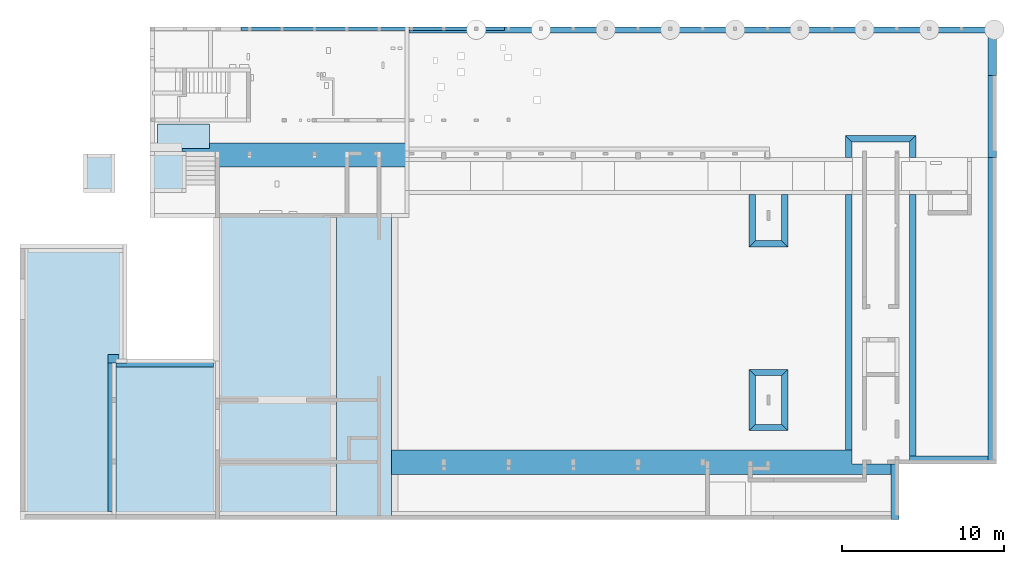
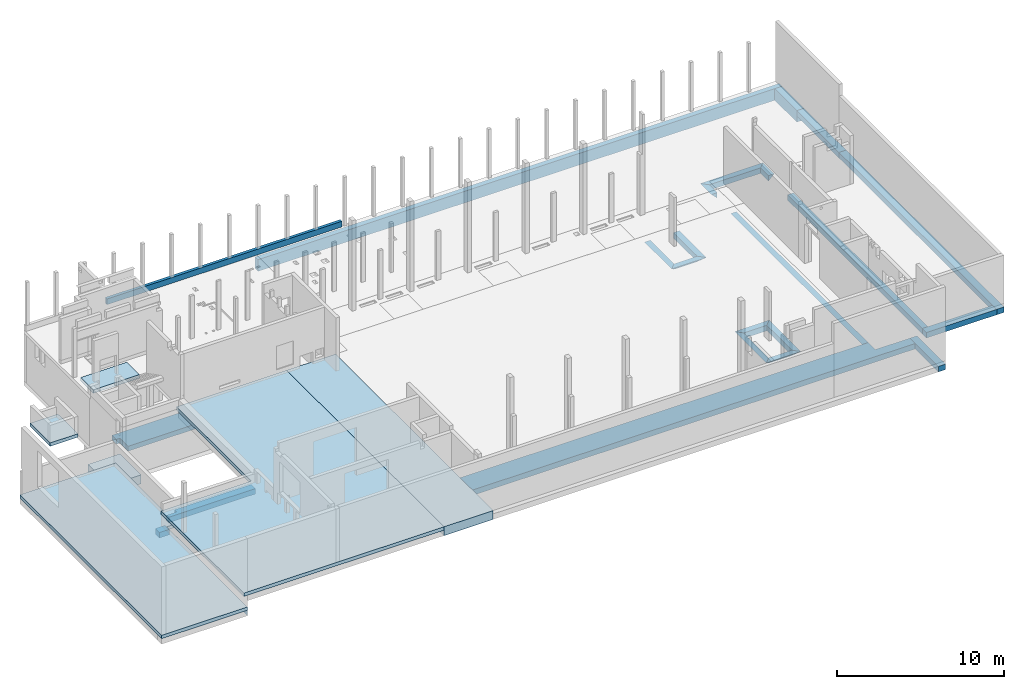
# One storey, part 3 of 12: 24 beams, 6 slabs, 3 openings.
"""IFC2X3 building model written with IfcOpenShell, lengths in metres."""

from ifc_helpers import new_model, entity, si_unit, converted_unit, direction, frame, frame_2d, origin, origin_2d_with_axis, place, context, subcontext, project, spatial, polyline, rectangle, outline, extrude, clip, halfspace, faceted_brep, material, layer, layer_set, layer_usage, type_object, element, save


model = new_model("IFC2X3")

# Units and contexts
model_context = context("Model", 3, precision=1e-05, world=frame((30.086303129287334, 2.687674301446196, 462.0)), true_north=direction((0.19008937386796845, 0.9817667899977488)))
body_context = subcontext(model_context, "Body", "Model", "MODEL_VIEW")
ifc_project = project(units=[si_unit("LENGTHUNIT", "METRE"), si_unit("AREAUNIT", "SQUARE_METRE"), converted_unit("PLANEANGLEUNIT", "DEGREE", entity("IfcPlaneAngleMeasure", 0.017453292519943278), si_unit("PLANEANGLEUNIT", "RADIAN"), dimensions=[0, 0, 0, 0, 0, 0, 0]), si_unit("VOLUMEUNIT", "CUBIC_METRE")], contexts=[model_context])

# Site, building, storey
site_placement = place(None, origin())
site = spatial("IfcSite", under=ifc_project, at=site_placement, Name="Default", CompositionType="ELEMENT")
building_placement = place(site_placement, origin())
building = spatial("IfcBuilding", under=site, at=building_placement, CompositionType="ELEMENT")
storey_placement = place(building_placement, frame((0.0, 0.0, -3.800000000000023)))
storey = spatial("IfcBuildingStorey", under=building, at=storey_placement, Name="FB_U01_OKFB", CompositionType="ELEMENT", Elevation=-3.800000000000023)

# Beams
ifc_material_1 = material(Name="WS_CONCRETE_REINFORCED")
beam_type_1 = type_object("IfcBeamType", Name="WS_FDN_REC:FDN_REC_350x1100", PredefinedType="BEAM")
beam_1_placement = place(storey_placement, frame((61.83033825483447, 6.340350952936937, 3.6800000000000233)))
element("IfcBeam", 1, at=beam_1_placement, inside=storey, type_object=beam_type_1, material=ifc_material_1, Name="WS_FDN_REC:FDN_REC_350x1100", ObjectType="WS_FDN_REC:FDN_REC_350x1100", context=body_context, shape_type="SweptSolid", body=[
    extrude(rectangle(XDim=0.8500000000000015, YDim=0.3500000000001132, at=frame_2d((5.551115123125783e-17, 2.8158031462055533e-14), x_axis=(1.0, 0.0))), frame((0.12499999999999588, 0.0, -0.6750000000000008), z_axis=(1.0, 0.0, 0.0), x_axis=(0.0, 0.0, -1.0)), (0.0, 0.0, 1.0), 36.29999966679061),
])
ifc_material_2 = material(Name="WS_CONCRETE_REINFORCED_WATERTIGHT")
beam_type_2 = type_object("IfcBeamType", Name="WS_FDN_REC:FDN_REC_500x650_WT", PredefinedType="BEAM")
beam_2_placement = place(storey_placement, frame((98.00533792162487, -20.35964897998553, 3.6800000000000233), z_axis=(0.0, 0.0, 1.0), x_axis=(0.0, 1.0, 0.0)))
element("IfcBeam", 2, at=beam_2_placement, inside=storey, type_object=beam_type_2, material=ifc_material_2, Name="WS_FDN_REC:FDN_REC_500x650_WT", ObjectType="WS_FDN_REC:FDN_REC_500x650_WT", context=body_context, shape_type="SweptSolid", body=[
    extrude(rectangle(XDim=0.4000000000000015, YDim=0.5000000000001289, at=frame_2d((5.551115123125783e-17, -8.663902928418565e-14), x_axis=(1.0, 0.0))), frame((-0.12500000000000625, 0.0, -0.45000000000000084), z_axis=(1.0, 0.0, 0.0), x_axis=(0.0, 0.0, -1.0)), (0.0, 0.0, 1.0), 18.955001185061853),
])
beam_3_placement = place(storey_placement, frame((92.10533873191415, -20.234648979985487, 3.6800000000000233)))
element("IfcBeam", 3, at=beam_3_placement, inside=storey, type_object=beam_type_2, material=ifc_material_2, Name="WS_FDN_REC:FDN_REC_500x650_WT", ObjectType="WS_FDN_REC:FDN_REC_500x650_WT", context=body_context, shape_type="SweptSolid", body=[
    extrude(rectangle(XDim=0.4000000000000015, YDim=0.5000000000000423, at=frame_2d((6.938893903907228e-17, 1.51684220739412e-14), x_axis=(1.0, 0.0))), frame((0.7749999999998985, 0.0, -0.45000000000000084), z_axis=(1.0, 0.0, 0.0), x_axis=(0.0, 0.0, -1.0)), (0.0, 0.0, 1.0), 4.874999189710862),
])
beam_4_placement = place(storey_placement, frame((91.98033873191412, -23.789655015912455, 3.6800000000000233), z_axis=(0.0, 0.0, 1.0), x_axis=(0.0, 1.0, 0.0)))
element("IfcBeam", 4, at=beam_4_placement, inside=storey, type_object=beam_type_2, material=ifc_material_2, Name="WS_FDN_REC:FDN_REC_500x650_WT", ObjectType="WS_FDN_REC:FDN_REC_500x650_WT", context=body_context, shape_type="SweptSolid", body=[
    extrude(rectangle(XDim=0.4000000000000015, YDim=0.500000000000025, at=frame_2d((6.938893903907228e-17, 0.0), x_axis=(1.0, 0.0))), frame((-0.12500000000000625, 0.0, -0.45000000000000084), z_axis=(1.0, 0.0, 0.0), x_axis=(0.0, 0.0, -1.0)), (0.0, 0.0, 1.0), 3.430006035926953),
])
beam_5_placement = place(storey_placement, frame((43.35152823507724, -23.914655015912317, 1.9300000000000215), z_axis=(0.0, 0.0, 1.0), x_axis=(0.0, 1.0, 0.0)))
element("IfcBeam", 5, at=beam_5_placement, inside=storey, type_object=beam_type_2, material=ifc_material_2, Name="WS_FDN_REC:FDN_REC_500x650_WT", ObjectType="WS_FDN_REC:FDN_REC_500x650_WT", context=body_context, shape_type="Brep", body=[
    faceted_brep([(9.68000601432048, -0.4999999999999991, 0.0), (9.68000601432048, 0.0, 0.0), (9.68000601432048, 0.0, 0.4000000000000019), (9.68000601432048, -0.4997770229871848, 0.4000000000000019), (9.68000601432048, -0.4997770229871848, 0.6499999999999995), (9.68000601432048, -0.4999999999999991, 0.6499999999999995), (9.68000601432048, -0.4999999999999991, 0.4000000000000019), (0.0, -0.49999999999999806, 0.6499999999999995), (0.0, -0.4997770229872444, 0.6499999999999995), (0.0, -0.49999999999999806, 0.0), (0.0, -0.4997770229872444, 0.0), (0.49999999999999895, -0.4997770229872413, 0.0), (0.49999999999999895, 0.0, 0.0), (0.49999999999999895, 0.0, 0.4000000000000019), (0.0, -0.4997770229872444, 0.4000000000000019), (0.5000000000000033, -0.4997770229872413, 0.4000000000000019)], [[[0, 1, 2, 3, 4, 5, 6]], [[7, 5, 4, 8]], [[5, 7, 9, 0, 6]], [[1, 0, 9, 10, 11, 12]], [[1, 12, 13, 2]], [[9, 7, 8, 14, 10]], [[12, 11, 15, 13]], [[4, 3, 15, 11, 10, 14, 8]], [[15, 3, 2, 13]]]),
])
beam_6_placement = place(storey_placement, frame((43.851305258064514, -14.484649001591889, 3.0300000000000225)))
element("IfcBeam", 6, at=beam_6_placement, inside=storey, type_object=beam_type_2, material=ifc_material_2, Name="WS_FDN_REC:FDN_REC_500x650_WT", ObjectType="WS_FDN_REC:FDN_REC_500x650_WT", context=body_context, shape_type="Brep", body=[
    faceted_brep([(0.0, 0.0, 0.4000000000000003), (0.0, 0.0, 0.0), (6.004032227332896, 0.0, 0.0), (6.004032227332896, 0.0, 0.4000000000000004), (6.0040322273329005, 0.5000000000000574, 0.0), (0.0, 0.24999999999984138, 0.0), (0.6790316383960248, 0.2499999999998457, 0.0), (0.6790316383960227, 0.5000000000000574, 0.0), (6.0040322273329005, 0.5000000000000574, 0.4000000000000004), (0.6790316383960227, 0.5000000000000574, 0.4000000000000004), (0.0, 0.24999999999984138, 0.4000000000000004), (0.6790316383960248, 0.2499999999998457, 0.4000000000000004)], [[[0, 1, 2, 3]], [[4, 2, 1, 5, 6, 7]], [[8, 4, 7, 9]], [[1, 0, 10, 5]], [[3, 8, 9, 11, 10, 0]], [[3, 2, 4, 8]], [[11, 6, 5, 10]], [[6, 11, 9, 7]]]),
])
beam_7_placement = place(storey_placement, frame((43.3503368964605, -13.98464900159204, 2.580000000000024)))
element("IfcBeam", 7, at=beam_7_placement, inside=storey, type_object=beam_type_2, material=ifc_material_2, Name="WS_FDN_REC:FDN_REC_500x650_WT", ObjectType="WS_FDN_REC:FDN_REC_500x650_WT", context=body_context, shape_type="SweptSolid", body=[
    extrude(rectangle(XDim=0.4000000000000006, YDim=0.500000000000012, at=origin_2d_with_axis()), frame((0.0, 0.0, -0.4500000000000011), z_axis=(1.0, 0.0, 0.0), x_axis=(0.0, 0.0, -1.0)), (0.0, 0.0, 1.0), 0.68000000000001),
])
beam_type_3 = type_object("IfcBeamType", Name="WS_FDN_REC:FDN_REC_500x1100", PredefinedType="BEAM")
beam_8_placement = place(storey_placement, frame((98.00533792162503, 3.5153509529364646, 3.6800000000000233), z_axis=(0.0, 0.0, 1.0), x_axis=(0.0, 1.0, 0.0)))
element("IfcBeam", 8, at=beam_8_placement, inside=storey, type_object=beam_type_3, material=ifc_material_1, Name="WS_FDN_REC:FDN_REC_500x1100", ObjectType="WS_FDN_REC:FDN_REC_500x1100", context=body_context, shape_type="SweptSolid", body=[
    extrude(rectangle(XDim=0.8500000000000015, YDim=0.5000000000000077, at=frame_2d((5.551115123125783e-17, -8.673617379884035e-15), x_axis=(1.0, 0.0))), frame((0.0, 0.0, -0.6750000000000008), z_axis=(1.0, 0.0, 0.0), x_axis=(0.0, 0.0, -1.0)), (0.0, 0.0, 1.0), 2.6500000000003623),
])
beam_type_4 = type_object("IfcBeamType", Name="WS_FDN_REC:FDN_REC_1500x650_WT", PredefinedType="BEAM")
beam_9_placement = place(storey_placement, frame((60.88081116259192, -21.134626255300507, 3.030000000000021)))
element("IfcBeam", 9, at=beam_9_placement, inside=storey, type_object=beam_type_4, material=ifc_material_2, Name="WS_FDN_REC:FDN_REC_1500x650_WT", ObjectType="WS_FDN_REC:FDN_REC_1500x650_WT", context=body_context, shape_type="Brep", body=[
    faceted_brep([(0.0, 0.0, 0.0), (30.84952756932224, 0.0, 0.0), (30.84952756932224, 0.0, 0.4000000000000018), (22.209549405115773, 0.0, 0.4000000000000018), (19.40452608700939, 0.0, 0.4000000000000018), (0.39999999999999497, 0.0, 0.4000000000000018), (0.0, 0.0, 0.4000000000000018), (0.0, 1.5000000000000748, 0.0), (28.449526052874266, 1.5000000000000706, 0.0), (28.449526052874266, 0.6499772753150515, 0.0), (30.849527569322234, 0.6499772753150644, 0.0), (0.0, 1.5000000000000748, 0.4000000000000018), (0.3999999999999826, 1.5000000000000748, 0.4000000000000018), (28.049526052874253, 1.5000000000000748, 0.4000000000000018), (28.449526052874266, 1.5000000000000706, 0.40000000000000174), (30.849527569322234, 0.6499772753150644, 0.4000000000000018), (28.449526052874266, 0.6499772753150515, 0.4000000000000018)], [[[0, 1, 2, 3, 4, 5, 6]], [[0, 7, 8, 9, 10, 1]], [[8, 7, 11, 12, 13, 14]], [[1, 10, 15, 2]], [[7, 0, 6, 11]], [[10, 9, 16, 15]], [[9, 8, 14, 16]], [[6, 5, 4, 3, 2, 15, 16, 14, 13, 12, 11]]]),
])
beam_10_placement = place(storey_placement, frame((47.90533862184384, -2.144647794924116, -0.7199999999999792), z_axis=(0.0, 0.0, 1.0), x_axis=(-1.0, 0.0, 0.0)))
element("IfcBeam", 10, at=beam_10_placement, inside=storey, type_object=beam_type_4, material=ifc_material_2, Name="WS_FDN_REC:FDN_REC_1500x650_WT", ObjectType="WS_FDN_REC:FDN_REC_1500x650_WT", context=body_context, shape_type="Brep", body=[
    faceted_brep([(-14.049999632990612, -1.5000000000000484, 0.0), (0.0, -1.5000000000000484, 0.0), (0.0, -1.5000000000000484, 0.35000000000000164), (-14.049999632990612, -1.5000000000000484, 0.35000000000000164), (-14.049999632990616, 0.0, 0.0), (-0.24999999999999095, 0.0, 0.0), (-0.24999999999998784, -0.9749999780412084, 0.0), (0.0, -0.9749999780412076, 0.0), (-14.049999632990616, 0.0, 0.35000000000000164), (-0.24999999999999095, 0.0, 0.35000000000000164), (-0.24999999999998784, -0.9749999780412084, 0.35000000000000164), (0.0, -0.9749999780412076, 0.35000000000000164)], [[[0, 1, 2, 3]], [[0, 4, 5, 6, 7, 1]], [[5, 4, 8, 9]], [[4, 0, 3, 8]], [[6, 5, 9, 10]], [[7, 6, 10, 11]], [[1, 7, 11, 2]], [[3, 2, 11, 10, 9, 8]]]),
])
beam_type_5 = type_object("IfcBeamType", Name="WS_FDN_Voute:FDN_REC_250x750_Voute_WT", PredefinedType="BEAM", material=ifc_material_2)
beam_11_placement = place(storey_placement, frame((93.06693144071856, -3.7046103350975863, 3.6800000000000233), z_axis=(0.0, 0.0, 1.0), x_axis=(0.0, -1.0, 0.0)))
element("IfcBeam", 11, at=beam_11_placement, inside=storey, type_object=beam_type_5, material=ifc_material_2, Name="WS_FDN_Voute:FDN_REC_250x750_Voute_WT", ObjectType="WS_FDN_Voute:FDN_REC_250x750_Voute_WT", context=body_context, shape_type="SweptSolid", body=[
    extrude(outline(polyline([(-0.1333333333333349, -0.1333333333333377), (0.2666666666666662, -0.1333333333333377), (-0.13333333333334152, 0.2666666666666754), (-0.1333333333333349, -0.1333333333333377)])), frame((0.12499999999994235, -0.05325937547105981, -0.3833333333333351), z_axis=(1.0, 0.0, 0.0), x_axis=(0.0, 0.0, -1.0)), (0.0, 0.0, 1.0), 16.155038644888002),
])
beam_12_placement = place(storey_placement, frame((89.14374450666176, -3.704610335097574, 3.6800000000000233), z_axis=(0.0, 0.0, 1.0), x_axis=(0.0, -1.0, 0.0)))
element("IfcBeam", 12, at=beam_12_placement, inside=storey, type_object=beam_type_5, material=ifc_material_2, Name="WS_FDN_Voute:FDN_REC_250x750_Voute_WT", ObjectType="WS_FDN_Voute:FDN_REC_250x750_Voute_WT", context=body_context, shape_type="SweptSolid", body=[
    extrude(outline(polyline([(-0.26666666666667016, -0.1333333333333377), (0.1333333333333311, -0.1333333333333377), (0.1333333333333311, 0.2666666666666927), (-0.26666666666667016, -0.1333333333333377)])), frame((0.12499999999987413, 0.05325937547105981, -0.38333333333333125), z_axis=(1.0, 0.0, 0.0), x_axis=(0.0, 0.0, 1.0)), (0.0, 0.0, 1.0), 15.805015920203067),
])
beam_13_placement = place(storey_placement, frame((83.17874464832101, -3.704610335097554, 3.6800000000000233), z_axis=(0.0, 0.0, 1.0), x_axis=(0.0, -1.0, 0.0)))
element("IfcBeam", 13, at=beam_13_placement, inside=storey, type_object=beam_type_5, material=ifc_material_2, Name="WS_FDN_Voute:FDN_REC_250x750_Voute_WT", ObjectType="WS_FDN_Voute:FDN_REC_250x750_Voute_WT", context=body_context, shape_type="SweptSolid", body=[
    clip(extrude(outline(polyline([(-0.2666666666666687, -0.1333333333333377), (0.1333333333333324, -0.1333333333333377), (0.1333333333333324, 0.2666666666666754), (-0.2666666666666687, -0.1333333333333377)])), frame((0.1249999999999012, 0.05325937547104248, -0.3833333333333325), z_axis=(1.0, 0.0, 0.0), x_axis=(0.0, 0.0, 1.0)), (0.0, 0.0, 1.0), 3.254960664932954), halfspace(frame((2.9799606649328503, 0.1865927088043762, 0.0), z_axis=(0.7071067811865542, 0.7071067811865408, 0.0), x_axis=(-0.7071067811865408, 0.7071067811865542, 0.0)), False)),
])
beam_14_placement = place(storey_placement, frame((85.15193006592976, -3.70461033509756, 3.6800000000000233), z_axis=(0.0, 0.0, 1.0), x_axis=(0.0, -1.0, 0.0)))
element("IfcBeam", 14, at=beam_14_placement, inside=storey, type_object=beam_type_5, material=ifc_material_2, Name="WS_FDN_Voute:FDN_REC_250x750_Voute_WT", ObjectType="WS_FDN_Voute:FDN_REC_250x750_Voute_WT", context=body_context, shape_type="SweptSolid", body=[
    clip(extrude(outline(polyline([(-0.1333333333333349, -0.1333333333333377), (0.2666666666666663, -0.1333333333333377), (-0.13333333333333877, 0.2666666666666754), (-0.1333333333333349, -0.1333333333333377)])), frame((0.12499999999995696, -0.05325937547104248, -0.38333333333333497), z_axis=(1.0, 0.0, 0.0), x_axis=(0.0, 0.0, -1.0)), (0.0, 0.0, 1.0), 3.254960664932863), halfspace(frame((2.9799606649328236, -0.1865927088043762, 0.0), z_axis=(0.7071067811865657, -0.7071067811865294, 0.0), x_axis=(0.7071067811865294, 0.7071067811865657, 0.0)), False)),
])
beam_15_placement = place(storey_placement, frame((83.17874464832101, -6.871163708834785, 3.6800000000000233)))
element("IfcBeam", 15, at=beam_15_placement, inside=storey, type_object=beam_type_5, material=ifc_material_2, Name="WS_FDN_Voute:FDN_REC_250x750_Voute_WT", ObjectType="WS_FDN_Voute:FDN_REC_250x750_Voute_WT", context=body_context, shape_type="SweptSolid", body=[
    clip(clip(extrude(outline(polyline([(-0.26666666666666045, -0.13333333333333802), (0.13333333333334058, -0.13333333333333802), (0.1333333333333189, 0.26666666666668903), (-0.26666666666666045, -0.13333333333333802)])), frame((-0.21340729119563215, 0.05325937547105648, -0.3833333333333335), z_axis=(1.0, 0.0, 0.0), x_axis=(0.0, 0.0, 1.0)), (0.0, 0.0, 1.0), 2.400000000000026), halfspace(frame((0.18659270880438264, 0.18659270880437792, 0.0), z_axis=(-0.7071067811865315, 0.7071067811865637, 0.0), x_axis=(0.7071067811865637, 0.7071067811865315, 0.0)), False)), halfspace(frame((1.7865927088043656, 0.18659270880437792, 0.0), z_axis=(0.7071067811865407, 0.7071067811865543, 0.0), x_axis=(0.7071067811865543, -0.7071067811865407, 0.0)), False)),
])
beam_16_placement = place(storey_placement, frame((83.17874464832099, -14.848055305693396, 3.6800000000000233), z_axis=(0.0, 0.0, 1.0), x_axis=(0.0, -1.0, 0.0)))
element("IfcBeam", 16, at=beam_16_placement, inside=storey, type_object=beam_type_5, material=ifc_material_2, Name="WS_FDN_Voute:FDN_REC_250x750_Voute_WT", ObjectType="WS_FDN_Voute:FDN_REC_250x750_Voute_WT", context=body_context, shape_type="SweptSolid", body=[
    clip(clip(extrude(outline(polyline([(-0.2666666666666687, -0.1333333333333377), (0.13333333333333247, -0.1333333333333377), (0.1333333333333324, 0.2666666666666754), (-0.2666666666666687, -0.1333333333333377)])), frame((-0.21340729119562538, 0.053259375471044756, -0.3833333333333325), z_axis=(1.0, 0.0, 0.0), x_axis=(0.0, 0.0, 1.0)), (0.0, 0.0, 1.0), 3.8000000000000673), halfspace(frame((3.186592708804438, 0.1865927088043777, 0.0), z_axis=(0.7071067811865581, 0.7071067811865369, 0.0), x_axis=(-0.7071067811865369, 0.7071067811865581, 0.0)), False)), halfspace(frame((0.18659270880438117, 0.18659270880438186, 0.0), z_axis=(-0.7071067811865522, 0.7071067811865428, 0.0), x_axis=(0.7071067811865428, 0.7071067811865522, 0.0)), False)),
])
beam_17_placement = place(storey_placement, frame((85.15193006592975, -14.848055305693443, 3.6800000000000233), z_axis=(0.0, 0.0, 1.0), x_axis=(0.0, -1.0, 0.0)))
element("IfcBeam", 17, at=beam_17_placement, inside=storey, type_object=beam_type_5, material=ifc_material_2, Name="WS_FDN_Voute:FDN_REC_250x750_Voute_WT", ObjectType="WS_FDN_Voute:FDN_REC_250x750_Voute_WT", context=body_context, shape_type="SweptSolid", body=[
    clip(clip(extrude(outline(polyline([(-0.1333333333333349, -0.1333333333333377), (0.2666666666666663, -0.1333333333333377), (-0.13333333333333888, 0.2666666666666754), (-0.1333333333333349, -0.1333333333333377)])), frame((-0.21340729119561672, -0.053259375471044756, -0.38333333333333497), z_axis=(1.0, 0.0, 0.0), x_axis=(0.0, 0.0, -1.0)), (0.0, 0.0, 1.0), 3.7999999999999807), halfspace(frame((3.1865927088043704, -0.1865927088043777, 0.0), z_axis=(0.7071067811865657, -0.7071067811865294, 0.0), x_axis=(0.7071067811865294, 0.7071067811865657, 0.0)), False)), halfspace(frame((0.1865927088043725, -0.18659270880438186, 0.0), z_axis=(-0.7071067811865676, -0.7071067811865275, 0.0), x_axis=(-0.7071067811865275, 0.7071067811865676, 0.0)), False)),
])
beam_18_placement = place(storey_placement, frame((83.17874464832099, -18.221240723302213, 3.6800000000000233)))
element("IfcBeam", 18, at=beam_18_placement, inside=storey, type_object=beam_type_5, material=ifc_material_2, Name="WS_FDN_Voute:FDN_REC_250x750_Voute_WT", ObjectType="WS_FDN_Voute:FDN_REC_250x750_Voute_WT", context=body_context, shape_type="SweptSolid", body=[
    clip(clip(extrude(outline(polyline([(-0.26666666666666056, -0.1333333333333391), (0.13333333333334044, -0.1333333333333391), (0.1333333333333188, 0.2666666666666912), (-0.26666666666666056, -0.1333333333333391)])), frame((-0.2134072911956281, 0.05325937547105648, -0.38333333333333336), z_axis=(1.0, 0.0, 0.0), x_axis=(0.0, 0.0, 1.0)), (0.0, 0.0, 1.0), 2.400000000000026), halfspace(frame((0.18659270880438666, 0.18659270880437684, 0.0), z_axis=(-0.7071067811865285, 0.7071067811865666, 0.0), x_axis=(0.7071067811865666, 0.7071067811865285, 0.0)), False)), halfspace(frame((1.7865927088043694, 0.18659270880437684, 0.0), z_axis=(0.7071067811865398, 0.7071067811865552, 0.0), x_axis=(0.7071067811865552, -0.7071067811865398, 0.0)), False)),
])
beam_19_placement = place(storey_placement, frame((83.17874464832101, -14.848055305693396, 3.6800000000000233)))
element("IfcBeam", 19, at=beam_19_placement, inside=storey, type_object=beam_type_5, material=ifc_material_2, Name="WS_FDN_Voute:FDN_REC_250x750_Voute_WT", ObjectType="WS_FDN_Voute:FDN_REC_250x750_Voute_WT", context=body_context, shape_type="SweptSolid", body=[
    clip(clip(extrude(outline(polyline([(-0.13333333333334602, -0.13333333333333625), (0.26666666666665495, -0.13333333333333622), (-0.13333333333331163, 0.26666666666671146), (-0.13333333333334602, -0.13333333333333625)])), frame((-0.21340729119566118, -0.05325937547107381, -0.3833333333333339), z_axis=(1.0, 0.0, 0.0), x_axis=(0.0, 0.0, -1.0)), (0.0, 0.0, 1.0), 2.400000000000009), halfspace(frame((0.1865927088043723, -0.18659270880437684, 0.0), z_axis=(-0.7071067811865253, -0.7071067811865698, 0.0), x_axis=(0.7071067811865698, -0.7071067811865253, 0.0)), False)), halfspace(frame((1.786592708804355, -0.18659270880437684, 0.0), z_axis=(0.707106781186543, -0.707106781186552, 0.0), x_axis=(0.707106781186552, 0.707106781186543, 0.0)), False)),
])
beam_type_6 = type_object("IfcBeamType", Name="WS_FDN_Voute:FDN_REC_250x750_Voute", PredefinedType="BEAM")
beam_20_placement = place(storey_placement, frame((89.1437445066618, -0.3980623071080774, 3.6800000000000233), z_axis=(0.0, 0.0, 1.0), x_axis=(0.0, -1.0, 0.0)))
element("IfcBeam", 20, at=beam_20_placement, inside=storey, type_object=beam_type_6, material=ifc_material_1, Name="WS_FDN_Voute:FDN_REC_250x750_Voute", ObjectType="WS_FDN_Voute:FDN_REC_250x750_Voute", context=body_context, shape_type="SweptSolid", body=[
    clip(extrude(outline(polyline([(-0.2666666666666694, -0.1333333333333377), (0.13333333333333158, -0.1333333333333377), (0.13333333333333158, 0.2666666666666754), (-0.2666666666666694, -0.1333333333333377)])), frame((-0.21340729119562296, 0.05325937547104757, -0.38333333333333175), z_axis=(1.0, 0.0, 0.0), x_axis=(0.0, 0.0, 1.0)), (0.0, 0.0, 1.0), 1.344992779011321), halfspace(frame((0.18659270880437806, 0.1865927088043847, 0.0), z_axis=(-0.7071067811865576, 0.7071067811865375, 0.0), x_axis=(0.7071067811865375, 0.7071067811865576, 0.0)), False)),
])
beam_21_placement = place(storey_placement, frame((93.06693144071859, -0.39806230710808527, 3.6800000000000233), z_axis=(0.0, 0.0, 1.0), x_axis=(-1.0, 0.0, 0.0)))
element("IfcBeam", 21, at=beam_21_placement, inside=storey, type_object=beam_type_6, material=ifc_material_1, Name="WS_FDN_Voute:FDN_REC_250x750_Voute", ObjectType="WS_FDN_Voute:FDN_REC_250x750_Voute", context=body_context, shape_type="SweptSolid", body=[
    clip(clip(extrude(outline(polyline([(-0.26666666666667, -0.1333333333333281), (0.1333333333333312, -0.1333333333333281), (0.13333333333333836, 0.2666666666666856), (-0.26666666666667, -0.1333333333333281)])), frame((-0.21340729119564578, 0.05325937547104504, -0.3833333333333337), z_axis=(1.0, 0.0, 0.0), x_axis=(0.0, 0.0, 1.0)), (0.0, 0.0, 1.0), 4.350001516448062), halfspace(frame((3.736594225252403, 0.1865927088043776, 0.0), z_axis=(0.707106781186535, 0.70710678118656, 0.0), x_axis=(-0.70710678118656, 0.707106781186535, 0.0)), False)), halfspace(frame((0.1865927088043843, 0.1865927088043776, 0.0), z_axis=(-0.7071067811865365, 0.7071067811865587, 0.0), x_axis=(-0.7071067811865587, -0.7071067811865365, 0.0)), False)),
])
beam_22_placement = place(storey_placement, frame((93.06693144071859, -0.3980623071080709, 3.6800000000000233), z_axis=(0.0, 0.0, 1.0), x_axis=(0.0, -1.0, 0.0)))
element("IfcBeam", 22, at=beam_22_placement, inside=storey, type_object=beam_type_6, material=ifc_material_1, Name="WS_FDN_Voute:FDN_REC_250x750_Voute", ObjectType="WS_FDN_Voute:FDN_REC_250x750_Voute", context=body_context, shape_type="SweptSolid", body=[
    clip(extrude(outline(polyline([(-0.13333333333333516, -0.1333333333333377), (0.26666666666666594, -0.1333333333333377), (-0.13333333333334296, 0.2666666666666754), (-0.13333333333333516, -0.1333333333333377)])), frame((-0.213407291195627, -0.05325937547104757, -0.3833333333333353), z_axis=(1.0, 0.0, 0.0), x_axis=(0.0, 0.0, -1.0)), (0.0, 0.0, 1.0), 1.344992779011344), halfspace(frame((0.18659270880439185, -0.1865927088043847, 0.0), z_axis=(-0.707106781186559, -0.7071067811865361, 0.0), x_axis=(-0.7071067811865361, 0.707106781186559, 0.0)), False)),
])
beam_type_7 = type_object("IfcBeamType", Name="WS_FDN_REC:FDN_REC_500x650", PredefinedType="BEAM")
beam_23_placement = place(storey_placement, frame((98.005337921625, -1.5296477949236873, 3.6800000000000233), z_axis=(0.0, 0.0, 1.0), x_axis=(0.0, 1.0, 0.0)))
element("IfcBeam", 23, at=beam_23_placement, inside=storey, type_object=beam_type_7, material=ifc_material_1, Name="WS_FDN_REC:FDN_REC_500x650", ObjectType="WS_FDN_REC:FDN_REC_500x650", context=body_context, shape_type="SweptSolid", body=[
    extrude(rectangle(XDim=0.4000000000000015, YDim=0.5000000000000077, at=frame_2d((5.551115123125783e-17, -8.673617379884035e-15), x_axis=(1.0, 0.0))), frame((0.0, 0.0, -0.45000000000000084), z_axis=(1.0, 0.0, 0.0), x_axis=(0.0, 0.0, -1.0)), (0.0, 0.0, 1.0), 5.044998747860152),
])
beam_type_8 = type_object("IfcBeamType", Name="WS_FDN_REC:FDN_REC_205x670", PredefinedType="BEAM")
beam_24_placement = place(storey_placement, frame((51.57533975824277, 6.412851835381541, 3.4300000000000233)))
element("IfcBeam", 24, at=beam_24_placement, inside=storey, type_object=beam_type_8, material=ifc_material_1, Name="WS_FDN_REC:FDN_REC_205x670", ObjectType="WS_FDN_REC:FDN_REC_205x670", context=body_context, shape_type="SweptSolid", body=[
    extrude(rectangle(XDim=0.41999999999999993, YDim=0.2050000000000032, at=frame_2d((-4.718447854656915e-16, 4.981431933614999e-14), x_axis=(1.0, 0.0))), frame((0.0, 0.0, 0.45999999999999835), z_axis=(1.0, 0.0, 0.0), x_axis=(0.0, 0.0, -1.0)), (0.0, 0.0, 1.0), 16.289998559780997),
])

# Slabs
ifc_layer_1 = layer(ifc_material_2, 0.65)
ifc_layer_set_1 = layer_set([ifc_layer_1], Name="Bodenplatte:WS_FDN_SLB_650_WT")
ifc_layer_usage_1 = layer_usage(ifc_layer_set_1, "AXIS3", "POSITIVE", 0.0)
slab_type_1 = type_object("IfcSlabType", Name="Bodenplatte:WS_FDN_SLB_650_WT", PredefinedType="BASESLAB", material=ifc_layer_set_1)
slab_1_placement = place(storey_placement, origin())
element("IfcSlab", 25, at=slab_1_placement, inside=storey, type_object=slab_type_1, material=ifc_layer_usage_1, Name="Bodenplatte:WS_FDN_SLB_650_WT", ObjectType="Bodenplatte:WS_FDN_SLB_650_WT", PredefinedType="BASESLAB", context=body_context, shape_type="SweptSolid", body=[
    extrude(rectangle(XDim=2.54996064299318, YDim=2.199999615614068, at=frame_2d((3.3306690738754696e-16, 4.3298697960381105e-15), x_axis=(1.0, 0.0))), frame((47.0553388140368, -2.4446281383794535, -1.4999999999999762), z_axis=(0.0, 0.0, -1.0), x_axis=(0.0, 1.0, 0.0)), (0.0, 0.0, 1.0), 0.6499999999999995),
])
ifc_layer_2 = layer(ifc_material_1, 0.24999999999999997)
ifc_layer_set_2 = layer_set([ifc_layer_2], Name="Geschossdecke:WS_SLB_CON_250")
ifc_layer_usage_2 = layer_usage(ifc_layer_set_2, "AXIS3", "POSITIVE", 0.0)
slab_type_2 = type_object("IfcSlabType", Name="Geschossdecke:WS_SLB_CON_250", PredefinedType="FLOOR", material=ifc_layer_set_2)
slab_2_placement = place(storey_placement, origin())
element("IfcSlab", 26, at=slab_2_placement, inside=storey, type_object=slab_type_2, material=ifc_layer_usage_2, Name="Geschossdecke:WS_SLB_CON_250", ObjectType="Geschossdecke:WS_SLB_CON_250", PredefinedType="FLOOR", context=body_context, shape_type="SweptSolid", body=[
    extrude(rectangle(XDim=2.3899212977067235, YDim=1.9249995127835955, at=frame_2d((1.1102230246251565e-16, 0.0), x_axis=(1.0, 0.0))), frame((42.8028331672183, -2.524608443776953, 3.050000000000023), z_axis=(0.0, 0.0, -1.0), x_axis=(0.0, 1.0, 0.0)), (0.0, 0.0, 1.0), 0.25),
])
ifc_layer_3 = layer(ifc_material_2, 0.24999999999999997)
ifc_layer_set_3 = layer_set([ifc_layer_3], Name="Geschossdecke:WS_SLB_CON_250_WT")
ifc_layer_usage_3 = layer_usage(ifc_layer_set_3, "AXIS3", "POSITIVE", 0.0)
slab_type_3 = type_object("IfcSlabType", Name="Geschossdecke:WS_SLB_CON_250_WT", PredefinedType="FLOOR", material=ifc_layer_set_3)
slab_3_placement = place(storey_placement, origin())
element("IfcSlab", 27, at=slab_3_placement, inside=storey, type_object=slab_type_3, material=ifc_layer_usage_3, Name="Geschossdecke:WS_SLB_CON_250_WT", ObjectType="Geschossdecke:WS_SLB_CON_250_WT", PredefinedType="FLOOR", context=body_context, shape_type="SweptSolid", body=[
    extrude(outline(polyline([(-8.890002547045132, -4.190322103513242), (8.099999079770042, -4.190322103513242), (8.099999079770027, 2.434676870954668), (0.7900034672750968, 2.434676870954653), (0.7900034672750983, 1.7556452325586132), (-8.890002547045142, 1.7556452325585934), (-8.890002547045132, -4.190322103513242)])), frame((42.095660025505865, -15.02465246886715, 2.580000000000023), z_axis=(0.0, 0.0, -1.0), x_axis=(0.0, 1.0, 0.0)), (0.0, 0.0, 1.0), 0.25),
])

# Slab, openings
ifc_layer_usage_4 = layer_usage(ifc_layer_set_3, "AXIS3", "POSITIVE", 0.0)
slab_4_placement = place(storey_placement, origin())
slab_4 = element("IfcSlab", 28, at=slab_4_placement, inside=storey, type_object=slab_type_3, material=ifc_layer_usage_4, Name="Geschossdecke:WS_SLB_CON_250_WT", ObjectType="Geschossdecke:WS_SLB_CON_250_WT", PredefinedType="FLOOR", context=body_context, shape_type="SweptSolid", body=[
    extrude(outline(polyline([(-9.61167086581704, -6.7110214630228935), (0.31833514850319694, -6.7110214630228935), (0.31833514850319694, -0.4569892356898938), (9.29333571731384, -0.4569892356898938), (9.29333571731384, 7.168010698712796), (-9.61167086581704, 7.168010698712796), (-9.61167086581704, -6.7110214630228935)])), frame((50.312326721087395, -14.302984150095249, 3.6800000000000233), z_axis=(0.0, 0.0, -1.0), x_axis=(0.0, 1.0, 0.0)), (0.0, 0.0, 1.0), 0.24999999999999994),
])
opening_1_placement = place(slab_4_placement, origin())
element("IfcOpeningElement", 29, at=opening_1_placement, cuts=slab_4, Name="Geschossdecke:WS_SLB_CON_250_WT", ObjectType="Opening", context=body_context, shape_type="SweptSolid", body=[
    extrude(rectangle(XDim=0.14000000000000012, YDim=0.499999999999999, at=frame_2d((8.118505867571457e-16, -4.343747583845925e-15), x_axis=(1.0, 0.0))), frame((54.79033735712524, -4.939648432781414, 3.4300000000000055), z_axis=(0.0, 0.0, 1.0), x_axis=(0.0, -1.0, 0.0)), (0.0, 0.0, 1.0), 0.24999999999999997),
])
opening_2_placement = place(slab_4_placement, origin())
element("IfcOpeningElement", 30, at=opening_2_placement, cuts=slab_4, Name="Geschossdecke:WS_SLB_CON_250_WT", ObjectType="Opening", context=body_context, shape_type="SweptSolid", body=[
    extrude(rectangle(XDim=1.4000000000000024, YDim=0.2, at=frame_2d((-4.3298697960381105e-15, 0.0), x_axis=(1.0, 0.0))), frame((53.40033796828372, -4.9096484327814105, 3.4300000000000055), z_axis=(0.0, 0.0, 1.0), x_axis=(-1.0, 0.0, 0.0)), (0.0, 0.0, 1.0), 0.24999999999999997),
])

# Slab, opening
ifc_layer_4 = layer(ifc_material_2, 0.65)
ifc_layer_set_4 = layer_set([ifc_layer_4], Name="Geschossdecke:WS_SLB_CON_650_WT")
ifc_layer_usage_5 = layer_usage(ifc_layer_set_4, "AXIS3", "POSITIVE", 0.0)
slab_type_4 = type_object("IfcSlabType", Name="Geschossdecke:WS_SLB_CON_650_WT", PredefinedType="FLOOR", material=ifc_layer_set_4)
slab_5_placement = place(storey_placement, origin())
slab_5 = element("IfcSlab", 31, at=slab_5_placement, inside=storey, type_object=slab_type_4, material=ifc_layer_usage_5, Name="Geschossdecke:WS_SLB_CON_650_WT", ObjectType="Geschossdecke:WS_SLB_CON_650_WT", PredefinedType="FLOOR", context=body_context, shape_type="SweptSolid", body=[
    extrude(rectangle(XDim=18.905006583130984, YDim=3.4004737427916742, at=frame_2d((-8.881784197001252e-16, -4.3298697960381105e-15), x_axis=(1.0, 0.0))), frame((59.18057429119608, -14.462151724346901, 3.6800000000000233), z_axis=(0.0, 0.0, -1.0), x_axis=(0.0, 1.0, 0.0)), (0.0, 0.0, 1.0), 0.65),
])
opening_3_placement = place(slab_5_placement, origin())
element("IfcOpeningElement", 32, at=opening_3_placement, cuts=slab_5, Name="Geschossdecke:WS_SLB_CON_650_WT", ObjectType="Opening", context=body_context, shape_type="SweptSolid", body=[
    extrude(rectangle(XDim=1.7499960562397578, YDim=3.590000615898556, at=origin_2d_with_axis()), frame((59.10533955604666, -3.2146481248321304, 3.4300000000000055), z_axis=(0.0, 0.0, 1.0), x_axis=(-1.0, 0.0, 0.0)), (0.0, 0.0, 1.0), 0.24999999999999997),
])

# Slab
ifc_material_3 = material(Name="WS_CONCRETE_PRECAST")
ifc_layer_5 = layer(ifc_material_3, 0.24999999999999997)
ifc_layer_set_5 = layer_set([ifc_layer_5], Name="Geschossdecke:WS_SLB_CON_250_FT")
ifc_layer_usage_6 = layer_usage(ifc_layer_set_5, "AXIS3", "POSITIVE", 0.0)
slab_type_5 = type_object("IfcSlabType", Name="Geschossdecke:WS_SLB_CON_250_FT", PredefinedType="FLOOR", material=ifc_layer_set_5)
slab_6_placement = place(storey_placement, origin())
element("IfcSlab", 33, at=slab_6_placement, inside=storey, type_object=slab_type_5, material=ifc_layer_usage_6, Name="Geschossdecke:WS_SLB_CON_250_FT", ObjectType="Geschossdecke:WS_SLB_CON_250_FT", PredefinedType="FLOOR", context=body_context, shape_type="SweptSolid", body=[
    extrude(rectangle(XDim=1.5100001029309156, YDim=3.199999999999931, at=origin_2d_with_axis()), frame((48.0053386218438, -0.2396084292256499, 3.6800000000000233), z_axis=(0.0, 0.0, -1.0), x_axis=(0.0, 1.0, 0.0)), (0.0, 0.0, 1.0), 0.24999999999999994),
])

save(model, "model.ifc")
